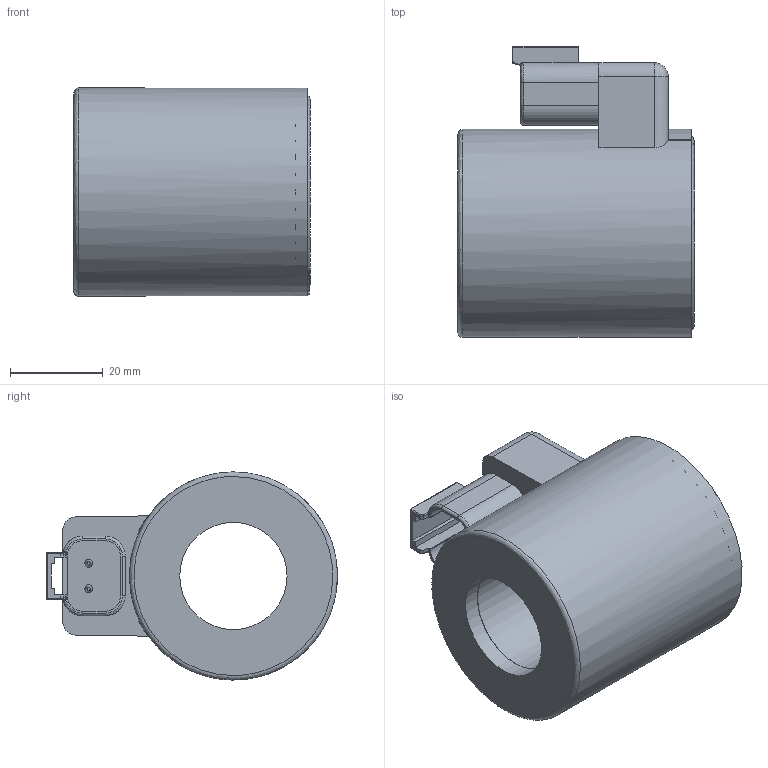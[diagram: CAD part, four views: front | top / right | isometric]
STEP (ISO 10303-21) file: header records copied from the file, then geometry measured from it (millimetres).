
FILE_DESCRIPTION (( 'STEP AP214' ), '1' );
FILE_NAME ('WGE45_23x50.STEP', '2017-12-20T07:49:40', ( '' ), ( '' ), 'SwSTEP 2.0', 'SolidWorks 2016', '' );
FILE_SCHEMA (( 'AUTOMOTIVE_DESIGN' ));
Length unit declared in the file: millimetre
Products named in the file (1): WGE45_23x50
Bounding box: 51.07 x 62.9 x 45 mm (x, y, z)
Surface area: 21099.5 mm2 (no closed solid volume)
Topology: 0 solids, 2 shells, 114 faces, 302 edges, 190 vertices
Faces by surface type: cylinder 47, plane 47, bspline 18, cone 2
Full cylindrical faces by diameter (mm): 1.65 x2, 23.2 x3, 23.4 x1, 38 x1, 39.288 x1, 40.744 x1, 44.429 x1, 45 x1
Entity records: 4835 total; most frequent: CARTESIAN_POINT 1373, ORIENTED_EDGE 544, DIRECTION 535, EDGE_CURVE 277, AXIS2_PLACEMENT_3D 195, VERTEX_POINT 184, VECTOR 145, LINE 145
